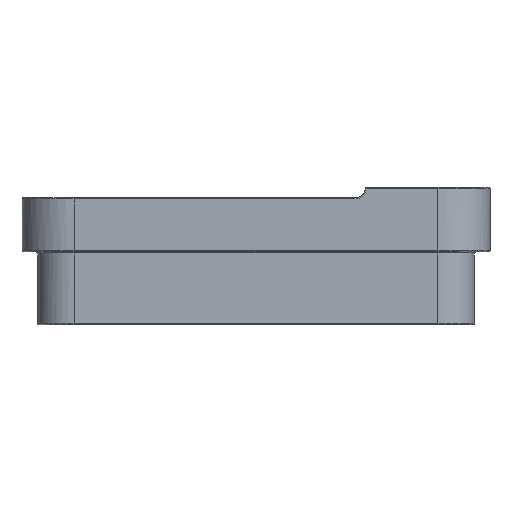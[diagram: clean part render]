
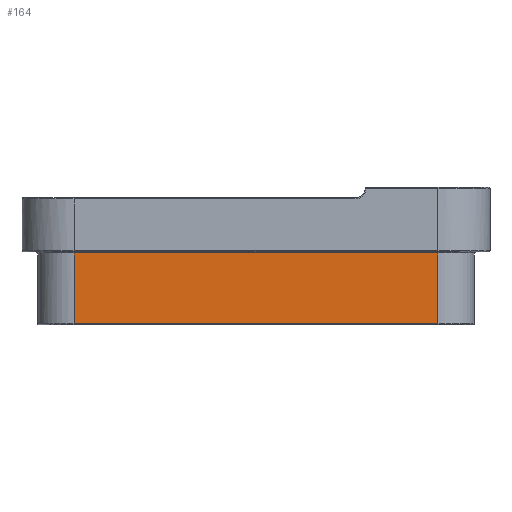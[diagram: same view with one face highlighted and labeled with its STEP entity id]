
A CAD part, front view. The second image highlights one B-rep face of the part: STEP entity #164.
In plain terms, the highlighted planar face has unit normal (0, -1, 0).
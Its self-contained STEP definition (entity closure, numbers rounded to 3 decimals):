
#164=ADVANCED_FACE('',(#440),#3807,.T.);
#440=FACE_OUTER_BOUND('',#716,.T.);
#716=EDGE_LOOP('',(#1437,#1438,#1439,#1440));
#1437=ORIENTED_EDGE('',*,*,#2419,.T.);
#1438=ORIENTED_EDGE('',*,*,#2415,.T.);
#1439=ORIENTED_EDGE('',*,*,#2420,.T.);
#1440=ORIENTED_EDGE('',*,*,#2418,.F.);
#2415=EDGE_CURVE('',#3532,#3533,#2901,.T.);
#2418=EDGE_CURVE('',#3535,#3534,#2904,.T.);
#2419=EDGE_CURVE('',#3535,#3532,#3141,.T.);
#2420=EDGE_CURVE('',#3533,#3534,#3142,.T.);
#2901=(
BOUNDED_CURVE()
B_SPLINE_CURVE(1,(#13570,#13571),.UNSPECIFIED.,.F.,.F.)
B_SPLINE_CURVE_WITH_KNOTS((2,2),(0.686,47.314),
 .UNSPECIFIED.)
CURVE()
GEOMETRIC_REPRESENTATION_ITEM()
RATIONAL_B_SPLINE_CURVE((1.,1.))
REPRESENTATION_ITEM('')
);
#2904=(
BOUNDED_CURVE()
B_SPLINE_CURVE(1,(#13578,#13579),.UNSPECIFIED.,.F.,.F.)
B_SPLINE_CURVE_WITH_KNOTS((2,2),(0.686,47.314),
 .UNSPECIFIED.)
CURVE()
GEOMETRIC_REPRESENTATION_ITEM()
RATIONAL_B_SPLINE_CURVE((1.,1.))
REPRESENTATION_ITEM('')
);
#3141=B_SPLINE_CURVE_WITH_KNOTS('',1,(#13580,#13581),.UNSPECIFIED.,.F.,
 .F.,(2,2),(0.,350.),.UNSPECIFIED.);
#3142=B_SPLINE_CURVE_WITH_KNOTS('',1,(#13582,#13583),.UNSPECIFIED.,.F.,
 .F.,(2,2),(0.,350.),.UNSPECIFIED.);
#3532=VERTEX_POINT('',#11007);
#3533=VERTEX_POINT('',#11008);
#3534=VERTEX_POINT('',#11009);
#3535=VERTEX_POINT('',#11010);
#3807=PLANE('',#4109);
#4109=AXIS2_PLACEMENT_3D('',#9923,#4262,$);
#4262=DIRECTION('',(0.,-1.,0.));
#9923=CARTESIAN_POINT('',(48954.397,1402.346,-8418.552));
#11007=CARTESIAN_POINT('',(48604.397,1402.346,-8419.552));
#11008=CARTESIAN_POINT('',(48604.397,1402.346,-8487.552));
#11009=CARTESIAN_POINT('',(48954.397,1402.346,-8487.552));
#11010=CARTESIAN_POINT('',(48954.397,1402.346,-8419.552));
#13570=CARTESIAN_POINT('',(48604.397,1402.346,-8419.552));
#13571=CARTESIAN_POINT('',(48604.397,1402.346,-8487.552));
#13578=CARTESIAN_POINT('',(48954.397,1402.346,-8419.552));
#13579=CARTESIAN_POINT('',(48954.397,1402.346,-8487.552));
#13580=CARTESIAN_POINT('',(48954.397,1402.346,-8419.552));
#13581=CARTESIAN_POINT('',(48604.397,1402.346,-8419.552));
#13582=CARTESIAN_POINT('',(48604.397,1402.346,-8487.552));
#13583=CARTESIAN_POINT('',(48954.397,1402.346,-8487.552));
